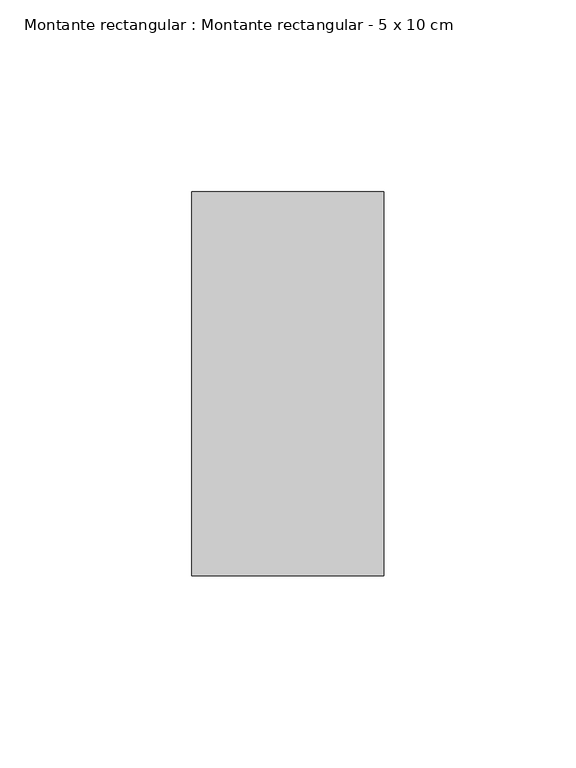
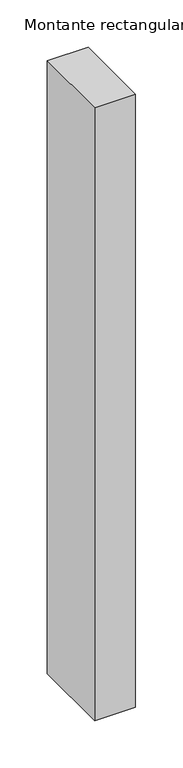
"""IFC4 building model written with IfcOpenShell, lengths in millimetres: member geometry, Montante rectangular : Montante rectangular - 5 x 10 cm."""

from ifc_helpers import new_model, si_unit, frame, origin, place, context, project, spatial, polyline, outline, extrude, source, transform, mapped, element, save


def montante_rectangular_montante_rectangular_5_x_10_cm_5d764200(model_context):
    return source(origin(), model_context, "Body", "SweptSolid", [
        extrude(outline(polyline([(-50.0, 50.0), (0.0, 50.0), (0.0, -50.0), (-50.0, -50.0), (-50.0, 50.0)])), frame((0.0, 0.0, -791.6666667), z_axis=(0.0, 0.0, 1.0), x_axis=(1.0, 0.0, 0.0)), (0.0, 0.0, 1.0), 791.6666667),
    ])


if __name__ == "__main__":
    model = new_model("IFC4")
    model_context = context("Model", 3, world=origin())
    ifc_project = project(units=[si_unit("LENGTHUNIT", "METRE", prefix="MILLI")], contexts=[model_context])
    site = spatial("IfcSite", under=ifc_project)
    building = spatial("IfcBuilding", under=site)
    placement = place(None, origin())
    montante_rectangular_montante_rectangular_5_x_10_cm_shape = montante_rectangular_montante_rectangular_5_x_10_cm_5d764200(model_context)
    element("IfcMember", 1, ObjectType="Montante rectangular : Montante rectangular - 5 x 10 cm", at=placement, inside=building, context=model_context, shape_type="MappedRepresentation", body=[
        mapped(montante_rectangular_montante_rectangular_5_x_10_cm_shape, transform((0.0, 0.0, 0.0), x_axis=(1.0, 0.0, 0.0), y_axis=(0.0, 1.0, 0.0), z_axis=(0.0, 0.0, 1.0))),
    ])
    save(model, "model.ifc")
